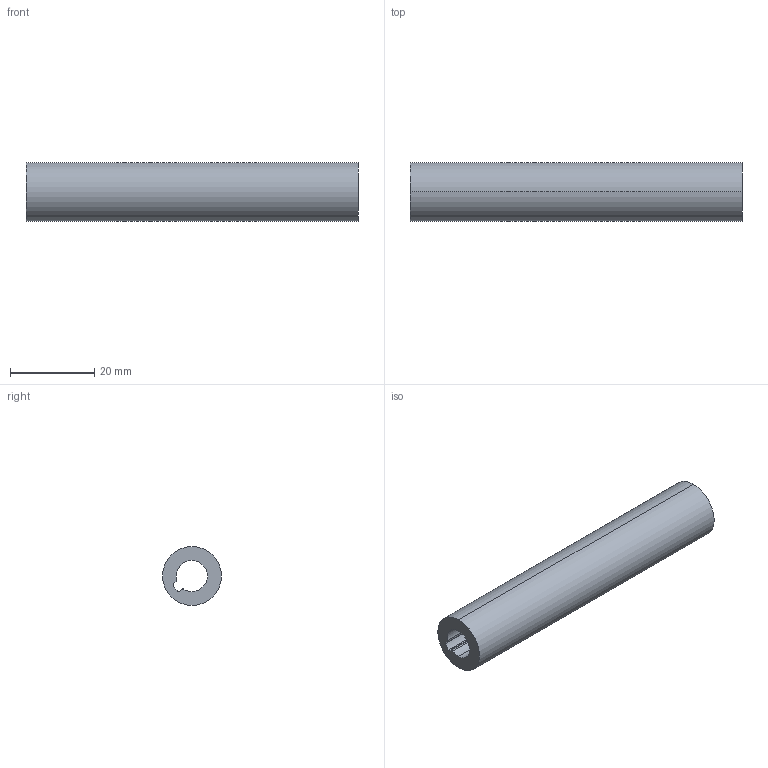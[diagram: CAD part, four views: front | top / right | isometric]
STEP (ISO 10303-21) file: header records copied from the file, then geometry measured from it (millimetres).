
FILE_DESCRIPTION (( 'STEP AP214' ), '1' );
FILE_NAME ('SyncronisationsstangeNova_Pro_KAB_150_KS16.step', '2009-11-24T08:53:20', ( 'Grass' ), ( 'Grass GmbH' ), 'SwSTEP 2.0', 'SolidWorks 2009', '' );
FILE_SCHEMA (( 'AUTOMOTIVE_DESIGN' ));
Length unit declared in the file: millimetre
Products named in the file (1): SyncronisationsstangeNova_Pro_KAB_150_KS16
Bounding box: 79 x 14 x 14 mm (x, y, z)
Volume: 8542.2 mm3; surface area: 5703.8 mm2
Topology: 1 solids, 1 shells, 15 faces, 39 edges, 26 vertices
Faces by surface type: cylinder 11, plane 4
Entity records: 513 total; most frequent: DIRECTION 93, CARTESIAN_POINT 81, ORIENTED_EDGE 78, EDGE_CURVE 39, AXIS2_PLACEMENT_3D 38, VERTEX_POINT 26, CIRCLE 22, VECTOR 17
